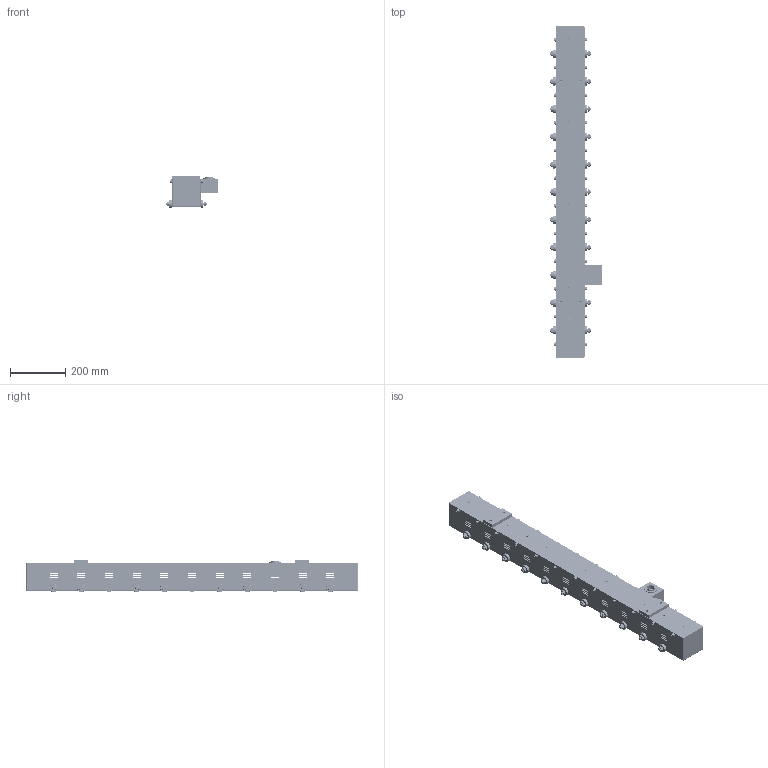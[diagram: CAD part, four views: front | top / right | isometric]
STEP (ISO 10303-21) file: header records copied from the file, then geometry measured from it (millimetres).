
FILE_DESCRIPTION(/* description */ (''),/* implementation_level */ '2;1');
FILE_NAME(/* name */ 'SER-RO-104Wx102Hx1200L-H.step',/* time_stamp */ '2022-12-16T15:50:17+09:00',/* author */ (''),/* organization */ (''),/* preprocessor_version */ 'ST-DEVELOPER v19.2',/* originating_system */ 'Autodesk Translation Framework v11.17.0.187',/* authorisation */ '');
FILE_SCHEMA (('AUTOMOTIVE_DESIGN { 1 0 10303 214 3 1 1 }'));
Length unit declared in the file: millimetre
Products named in the file (36): SER-RO-104Wx102Hx1200L-H; CASE; Shaft; TopPlate; CAP_BOLT_M6(L=16); CAP_BOLT_M6(L=16) v1(ミラー); BOX-SFB8-30; ConectorBox; BKJ4-10; BFBJ3-8; Shaft_1; Shaft_2; Shaft_3; Shaft_4; Shaft_5; Shaft_6; Shaft_7; Shaft_8; Shaft_9; Shaft_10; 6200ZZ; 6200ZZ Shield2; 6200ZZ Ball; 6200ZZ Inner ring; 6200ZZ Shield1; 6200ZZ Outer ring; CB10-25; UNUTZ10; 6200ZZ v1(ミラー); 6200ZZ Shield2(ミラー); 6200ZZ Ball(ミラー); 6200ZZ Inner ring(ミラー); 6200ZZ Shield1(ミラー); 6200ZZ Outer ring(ミラー); CB10-25 v1(ミラー); UNUTZ10 v2(ミラー)
Assembly tree (157 placements, depth 4):
  SER-RO-104Wx102Hx1200L-H
    CASE
    Shaft
      6200ZZ
        6200ZZ Shield2
        6200ZZ Ball  x13
        6200ZZ Inner ring
        6200ZZ Shield1
        6200ZZ Outer ring
      CB10-25
      UNUTZ10
      6200ZZ v1(ミラー)
        6200ZZ Shield2(ミラー)
        6200ZZ Ball(ミラー)  x13
        6200ZZ Inner ring(ミラー)
        6200ZZ Shield1(ミラー)
        6200ZZ Outer ring(ミラー)
      CB10-25 v1(ミラー)
      UNUTZ10 v2(ミラー)
    TopPlate
      BOX-SFB8-30  x12
      CAP_BOLT_M6(L=16)  x12
      CAP_BOLT_M6(L=16) v1(ミラー)  x12
    ConectorBox
      BKJ4-10  x4
      BFBJ3-8  x3
    Shaft_1
      6200ZZ
        6200ZZ Shield2
        6200ZZ Ball  x13
        6200ZZ Inner ring
        6200ZZ Shield1
        6200ZZ Outer ring
      CB10-25
      UNUTZ10
      6200ZZ v1(ミラー)
        6200ZZ Shield2(ミラー)
        6200ZZ Ball(ミラー)  x13
        6200ZZ Inner ring(ミラー)
        6200ZZ Shield1(ミラー)
        6200ZZ Outer ring(ミラー)
      CB10-25 v1(ミラー)
      UNUTZ10 v2(ミラー)
    Shaft_2
      6200ZZ
        6200ZZ Shield2
        6200ZZ Ball  x13
        6200ZZ Inner ring
        6200ZZ Shield1
        6200ZZ Outer ring
      CB10-25
      UNUTZ10
      6200ZZ v1(ミラー)
        6200ZZ Shield2(ミラー)
        6200ZZ Ball(ミラー)  x13
        6200ZZ Inner ring(ミラー)
        6200ZZ Shield1(ミラー)
        6200ZZ Outer ring(ミラー)
      CB10-25 v1(ミラー)
      UNUTZ10 v2(ミラー)
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Bounding box: 191.55 x 1200 x 117 mm (x, y, z)
Volume: 3230503.9 mm3; surface area: 1322215 mm2
Topology: 512 solids, 512 shells, 3782 faces, 8581 edges, 5441 vertices
Faces by surface type: plane 1790, cylinder 1059, cone 470, sphere 298, torus 165
Full cylindrical faces by diameter (mm): 2.529 x6, 2.693 x3, 3 x3, 3.57 x4, 4 x4, 5 x4, 5.035 x24, 6 x27, 6.5 x48, 8 x12, 8.376 x22, 8.526 x16, 10 x90, 10.2 x22, 13.5 x22, 14 x24, 15.73 x12, 16 x44, 16.1 x88, 17 x22, 17.3 x44, 23.7 x44, 25.6 x88, 26 x2, 30 x23, 46 x1
Entity records: 32413 total; most frequent: DIRECTION 5626, CARTESIAN_POINT 5395, ORIENTED_EDGE 4896, EDGE_CURVE 2448, AXIS2_PLACEMENT_3D 2059, VERTEX_POINT 1608, LINE 1508, VECTOR 1508
